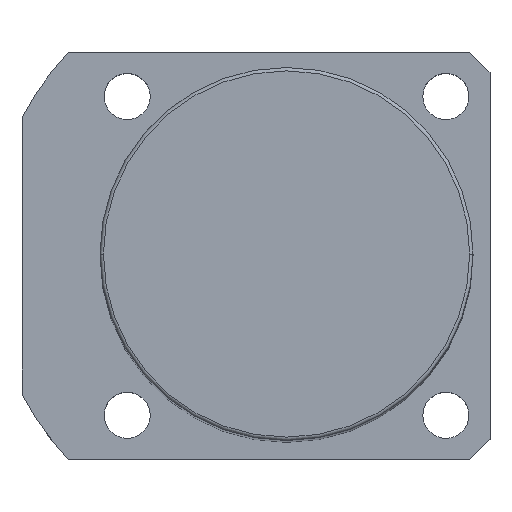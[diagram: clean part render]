
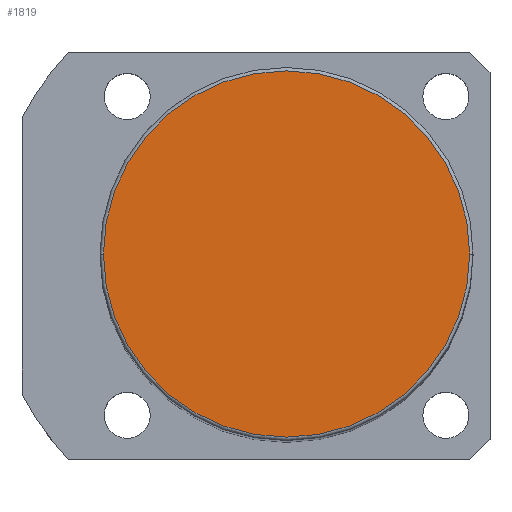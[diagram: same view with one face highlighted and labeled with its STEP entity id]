
A CAD part, top view. The second image highlights one B-rep face of the part: STEP entity #1819.
In plain terms, the highlighted planar face has unit normal (0, 0, 1).
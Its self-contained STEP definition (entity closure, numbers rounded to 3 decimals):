
#42 = FACE_OUTER_BOUND ( 'NONE', #1337, .T. ) ;
#83 = AXIS2_PLACEMENT_3D ( 'NONE', #1771, #917, #415 ) ;
#129 = CIRCLE ( 'NONE', #547, 27. ) ;
#415 = DIRECTION ( 'NONE',  ( 1., 0., 0. ) ) ;
#437 = CARTESIAN_POINT ( 'NONE',  ( 0., 0., 166. ) ) ;
#518 = EDGE_CURVE ( 'NONE', #545, #1330, #1098, .T. ) ;
#545 = VERTEX_POINT ( 'NONE', #2114 ) ;
#547 = AXIS2_PLACEMENT_3D ( 'NONE', #582, #1052, #1232 ) ;
#575 = CARTESIAN_POINT ( 'NONE',  ( 27., 0., 166. ) ) ;
#582 = CARTESIAN_POINT ( 'NONE',  ( 0., 0., 166. ) ) ;
#594 = DIRECTION ( 'NONE',  ( 1., 0., 0. ) ) ;
#599 = ORIENTED_EDGE ( 'NONE', *, *, #1249, .T. ) ;
#917 = DIRECTION ( 'NONE',  ( 0., 0., 1. ) ) ;
#1052 = DIRECTION ( 'NONE',  ( 0., 0., 1. ) ) ;
#1065 = PLANE ( 'NONE',  #83 ) ;
#1098 = CIRCLE ( 'NONE', #1806, 27. ) ;
#1232 = DIRECTION ( 'NONE',  ( 1., 0., 0. ) ) ;
#1249 = EDGE_CURVE ( 'NONE', #1330, #545, #129, .T. ) ;
#1330 = VERTEX_POINT ( 'NONE', #575 ) ;
#1337 = EDGE_LOOP ( 'NONE', ( #599, #1462 ) ) ;
#1462 = ORIENTED_EDGE ( 'NONE', *, *, #518, .T. ) ;
#1604 = DIRECTION ( 'NONE',  ( 0., 0., 1. ) ) ;
#1771 = CARTESIAN_POINT ( 'NONE',  ( 0., 0., 166. ) ) ;
#1806 = AXIS2_PLACEMENT_3D ( 'NONE', #437, #1604, #594 ) ;
#1819 = ADVANCED_FACE ( 'NONE', ( #42 ), #1065, .T. ) ;
#2114 = CARTESIAN_POINT ( 'NONE',  ( -27., 0., 166. ) ) ;
